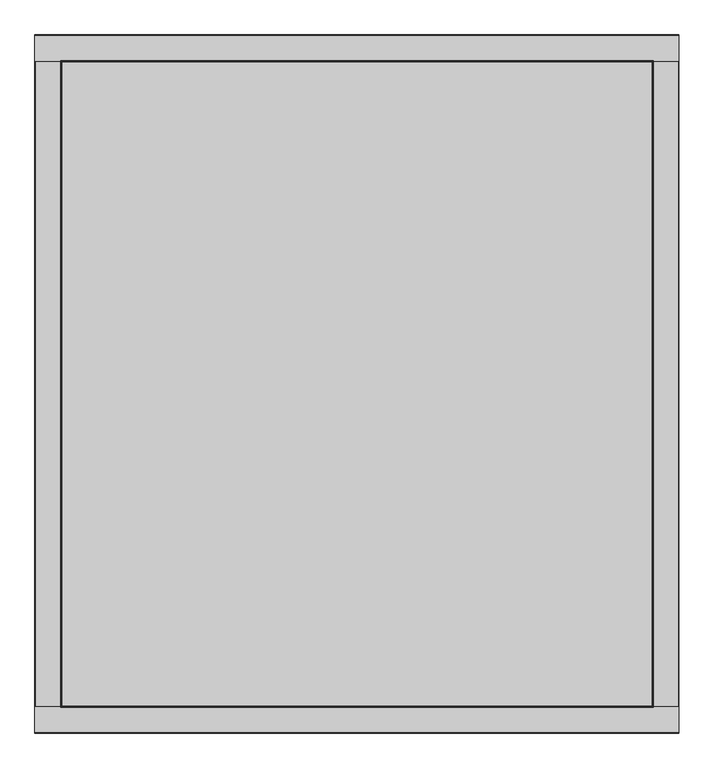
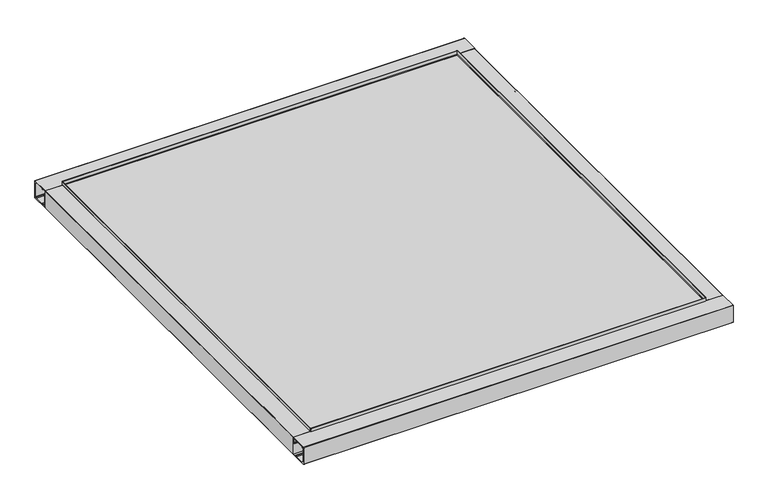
"""IFC4 building model written with IfcOpenShell, lengths in millimetres: proxy geometry, Specialy Equipment_Blindspace_Standard-Pockets-for-Roller-Blinds : 2400 mm x 2600 mm with 100 x 100 mm Box."""

from ifc_helpers import new_model, si_unit, point, frame, frame_2d, origin, place, context, project, spatial, polyline, circle_curve, trimmed, segment, composite_curve, outline, extrude, source, transform, mapped, element, save


def specialty_equipment_d781054c(model_context):
    return source(origin(), model_context, "Body", "SweptSolid", [
        extrude(outline(composite_curve([segment(polyline([(-1202.1451772, -20.5), (-1203.5000001, -20.5), (-1203.5000001, -0.3751424)]), True, "CONTINUOUS"), segment(trimmed(circle_curve(frame_2d((-1203.1248154, -0.3751424)), 0.3751847), [point((-1203.5000001, -0.3751424))], [point((-1202.7497998, -0.3638819))], False, "CARTESIAN"), True, "CONTINUOUS"), segment(polyline([(-1202.7497998, -0.3638819), (-1202.1451772, -20.5)]), True, "CONTINUOUS")], self_intersect=False)), frame((-1104.2, 0.0, 0.0), z_axis=(1.0, 0.0, 0.0), x_axis=(0.0, 1.0, 0.0)), (0.0, 0.0, 1.0), 2208.4),
        extrude(outline(composite_curve([segment(polyline([(-1202.1451772, -120.5), (-1202.7497998, -140.6361181)]), True, "CONTINUOUS"), segment(trimmed(circle_curve(frame_2d((-1203.1248154, -140.6248576)), 0.3751847), [point((-1202.7497998, -140.6361181))], [point((-1203.5000001, -140.6248576))], False, "CARTESIAN"), True, "CONTINUOUS"), segment(polyline([(-1203.5000001, -140.6248576), (-1203.5000001, -120.5), (-1202.1451772, -120.5)]), True, "CONTINUOUS")], self_intersect=False)), frame((-1104.2, 0.0, 0.0), z_axis=(1.0, 0.0, 0.0), x_axis=(0.0, 1.0, 0.0)), (0.0, 0.0, 1.0), 2208.4),
        extrude(outline(composite_curve([segment(polyline([(-20.5, 1199.25), (-20.5, 1102.132627), (-23.0, 1100.0), (-23.0, 1122.9912851), (-28.2357774, 1122.9912851), (-28.2357774, 1130.0039757), (-23.0, 1130.0039757), (-23.0, 1188.0030209), (-28.2357774, 1188.0030209), (-28.2357774, 1194.991), (-23.0, 1194.991), (-23.0, 1197.5), (-118.0, 1197.5), (-118.0, 1194.991), (-112.7642226, 1194.991), (-112.7642226, 1188.0030209), (-118.0, 1188.0030209), (-118.0, 1130.0039757), (-112.7642226, 1130.0039757), (-112.7642226, 1122.9912851), (-118.0, 1122.9912851), (-118.0, 1102.4875145), (-54.5, 1102.4875145), (-54.5, 1107.4875145), (-52.0, 1107.4875145), (-52.0, 1100.0), (-118.0, 1100.0), (-120.5, 1102.1351518), (-120.5, 1199.25)]), True, "CONTINUOUS"), segment(trimmed(circle_curve(frame_2d((-119.75, 1199.25)), 0.75), [point((-120.5, 1199.25))], [point((-119.75, 1200.0))], False, "CARTESIAN"), True, "CONTINUOUS"), segment(polyline([(-119.75, 1200.0), (-21.25, 1200.0)]), True, "CONTINUOUS"), segment(trimmed(circle_curve(frame_2d((-21.25, 1199.25)), 0.75), [point((-21.25, 1200.0))], [point((-20.5, 1199.25))], False, "CARTESIAN"), True, "CONTINUOUS")], self_intersect=False)), frame((0.0, -1200.0, 0.0), z_axis=(0.0, 1.0, 0.0), x_axis=(0.0, 0.0, 1.0)), (0.0, 0.0, 1.0), 2400.0),
        extrude(outline(composite_curve([segment(polyline([(-1299.25, -20.5), (-1202.132627, -20.5), (-1200.0, -23.0), (-1222.9912851, -23.0), (-1222.9912851, -28.2357774), (-1230.0039757, -28.2357774), (-1230.0039757, -23.0), (-1288.0030209, -23.0), (-1288.0030209, -28.2357774), (-1294.991, -28.2357774), (-1294.991, -23.0), (-1297.5, -23.0), (-1297.5, -118.0), (-1294.991, -118.0), (-1294.991, -112.7642226), (-1288.0030209, -112.7642226), (-1288.0030209, -118.0), (-1230.0039757, -118.0), (-1230.0039757, -112.7642226), (-1222.9912851, -112.7642226), (-1222.9912851, -118.0), (-1202.4875145, -118.0), (-1202.4875145, -54.5), (-1207.4875145, -54.5), (-1207.4875145, -52.0), (-1200.0, -52.0), (-1200.0, -118.0), (-1202.1351518, -120.5), (-1299.25, -120.5)]), True, "CONTINUOUS"), segment(trimmed(circle_curve(frame_2d((-1299.25, -119.75)), 0.75), [point((-1299.25, -120.5))], [point((-1300.0, -119.75))], False, "CARTESIAN"), True, "CONTINUOUS"), segment(polyline([(-1300.0, -119.75), (-1300.0, -21.25)]), True, "CONTINUOUS"), segment(trimmed(circle_curve(frame_2d((-1299.25, -21.25)), 0.75), [point((-1300.0, -21.25))], [point((-1299.25, -20.5))], False, "CARTESIAN"), True, "CONTINUOUS")], self_intersect=False)), frame((-1200.0, 0.0, 0.0), z_axis=(1.0, 0.0, 0.0), x_axis=(0.0, 1.0, 0.0)), (0.0, 0.0, 1.0), 2400.0),
        extrude(outline(composite_curve([segment(polyline([(-20.5, 1102.8451771), (-20.5, 1104.2), (-0.3751424, 1104.2)]), True, "CONTINUOUS"), segment(trimmed(circle_curve(frame_2d((-0.3751424, 1103.8248153)), 0.3751847), [point((-0.3751424, 1104.2))], [point((-0.3638819, 1103.4497997))], False, "CARTESIAN"), True, "CONTINUOUS"), segment(polyline([(-0.3638819, 1103.4497997), (-20.5, 1102.8451771)]), True, "CONTINUOUS")], self_intersect=False)), frame((0.0, -1200.0, 0.0), z_axis=(0.0, 1.0, 0.0), x_axis=(0.0, 0.0, 1.0)), (0.0, 0.0, 1.0), 2400.0),
        extrude(outline(composite_curve([segment(polyline([(-120.5, 1102.8451771), (-140.6361181, 1103.4497997)]), True, "CONTINUOUS"), segment(trimmed(circle_curve(frame_2d((-140.6248576, 1103.8248153)), 0.3751847), [point((-140.6361181, 1103.4497997))], [point((-140.6248576, 1104.2))], False, "CARTESIAN"), True, "CONTINUOUS"), segment(polyline([(-140.6248576, 1104.2), (-120.5, 1104.2), (-120.5, 1102.8451771)]), True, "CONTINUOUS")], self_intersect=False)), frame((0.0, -1200.0, 0.0), z_axis=(0.0, 1.0, 0.0), x_axis=(0.0, 0.0, 1.0)), (0.0, 0.0, 1.0), 2400.0),
        extrude(outline(composite_curve([segment(trimmed(circle_curve(frame_2d((-21.25, -1199.25)), 0.75), [point((-20.5, -1199.25))], [point((-21.25, -1200.0))], False, "CARTESIAN"), True, "CONTINUOUS"), segment(polyline([(-21.25, -1200.0), (-119.75, -1200.0)]), True, "CONTINUOUS"), segment(trimmed(circle_curve(frame_2d((-119.75, -1199.25)), 0.75), [point((-119.75, -1200.0))], [point((-120.5, -1199.25))], False, "CARTESIAN"), True, "CONTINUOUS"), segment(polyline([(-120.5, -1199.25), (-120.5, -1102.1351518), (-118.0, -1100.0), (-52.0, -1100.0), (-52.0, -1107.4875145), (-54.5, -1107.4875145), (-54.5, -1102.4875145), (-118.0, -1102.4875145), (-118.0, -1122.9912851), (-112.7642226, -1122.9912851), (-112.7642226, -1130.0039757), (-118.0, -1130.0039757), (-118.0, -1188.0030209), (-112.7642226, -1188.0030209), (-112.7642226, -1194.991), (-118.0, -1194.991), (-118.0, -1197.5), (-23.0, -1197.5), (-23.0, -1194.991), (-28.2357774, -1194.991), (-28.2357774, -1188.0030209), (-23.0, -1188.0030209), (-23.0, -1130.0039757), (-28.2357774, -1130.0039757), (-28.2357774, -1122.9912851), (-23.0, -1122.9912851), (-23.0, -1100.0), (-20.5, -1102.132627), (-20.5, -1199.25)]), True, "CONTINUOUS")], self_intersect=False)), frame((0.0, -1200.0, 0.0), z_axis=(0.0, 1.0, 0.0), x_axis=(0.0, 0.0, 1.0)), (0.0, 0.0, 1.0), 2400.0),
        extrude(outline(composite_curve([segment(polyline([(-20.5, -1102.87895), (-0.3638819, -1103.4835725)]), True, "CONTINUOUS"), segment(trimmed(circle_curve(frame_2d((-0.3751424, -1103.8585881)), 0.3751847), [point((-0.3638819, -1103.4835725))], [point((-0.3751424, -1104.2337728))], False, "CARTESIAN"), True, "CONTINUOUS"), segment(polyline([(-0.3751424, -1104.2337728), (-20.5, -1104.2337728), (-20.5, -1102.87895)]), True, "CONTINUOUS")], self_intersect=False)), frame((0.0, -1200.0, 0.0), z_axis=(0.0, 1.0, 0.0), x_axis=(0.0, 0.0, 1.0)), (0.0, 0.0, 1.0), 2400.0),
        extrude(outline(composite_curve([segment(polyline([(-120.5, -1102.87895), (-120.5, -1104.2337728), (-140.6248576, -1104.2337728)]), True, "CONTINUOUS"), segment(trimmed(circle_curve(frame_2d((-140.6248576, -1103.8585881)), 0.3751847), [point((-140.6248576, -1104.2337728))], [point((-140.6361181, -1103.4835725))], False, "CARTESIAN"), True, "CONTINUOUS"), segment(polyline([(-140.6361181, -1103.4835725), (-120.5, -1102.87895)]), True, "CONTINUOUS")], self_intersect=False)), frame((0.0, -1200.0, 0.0), z_axis=(0.0, 1.0, 0.0), x_axis=(0.0, 0.0, 1.0)), (0.0, 0.0, 1.0), 2400.0),
        extrude(outline(composite_curve([segment(trimmed(circle_curve(frame_2d((1299.25, -21.25)), 0.75), [point((1299.25, -20.5))], [point((1300.0, -21.25))], False, "CARTESIAN"), True, "CONTINUOUS"), segment(polyline([(1300.0, -21.25), (1300.0, -119.75)]), True, "CONTINUOUS"), segment(trimmed(circle_curve(frame_2d((1299.25, -119.75)), 0.75), [point((1300.0, -119.75))], [point((1299.25, -120.5))], False, "CARTESIAN"), True, "CONTINUOUS"), segment(polyline([(1299.25, -120.5), (1202.1351518, -120.5), (1200.0, -118.0), (1200.0, -52.0), (1207.4875145, -52.0), (1207.4875145, -54.5), (1202.4875145, -54.5), (1202.4875145, -118.0), (1222.9912851, -118.0), (1222.9912851, -112.7642226), (1230.0039757, -112.7642226), (1230.0039757, -118.0), (1288.0030209, -118.0), (1288.0030209, -112.7642226), (1294.991, -112.7642226), (1294.991, -118.0), (1297.5, -118.0), (1297.5, -23.0), (1294.991, -23.0), (1294.991, -28.2357774), (1288.0030209, -28.2357774), (1288.0030209, -23.0), (1230.0039757, -23.0), (1230.0039757, -28.2357774), (1222.9912851, -28.2357774), (1222.9912851, -23.0), (1200.0, -23.0), (1202.132627, -20.5), (1299.25, -20.5)]), True, "CONTINUOUS")], self_intersect=False)), frame((-1200.0, 0.0, 0.0), z_axis=(1.0, 0.0, 0.0), x_axis=(0.0, 1.0, 0.0)), (0.0, 0.0, 1.0), 2400.0),
        extrude(outline(composite_curve([segment(polyline([(1202.1451772, -20.5), (1202.7497998, -0.3638819)]), True, "CONTINUOUS"), segment(trimmed(circle_curve(frame_2d((1203.1248154, -0.3751424)), 0.3751847), [point((1202.7497998, -0.3638819))], [point((1203.5000001, -0.3751424))], False, "CARTESIAN"), True, "CONTINUOUS"), segment(polyline([(1203.5000001, -0.3751424), (1203.5000001, -20.5), (1202.1451772, -20.5)]), True, "CONTINUOUS")], self_intersect=False)), frame((-1104.2, 0.0, 0.0), z_axis=(1.0, 0.0, 0.0), x_axis=(0.0, 1.0, 0.0)), (0.0, 0.0, 1.0), 2208.4),
        extrude(outline(composite_curve([segment(polyline([(1202.1451772, -120.5), (1203.5000001, -120.5), (1203.5000001, -140.6248576)]), True, "CONTINUOUS"), segment(trimmed(circle_curve(frame_2d((1203.1248154, -140.6248576)), 0.3751847), [point((1203.5000001, -140.6248576))], [point((1202.7497998, -140.6361181))], False, "CARTESIAN"), True, "CONTINUOUS"), segment(polyline([(1202.7497998, -140.6361181), (1202.1451772, -120.5)]), True, "CONTINUOUS")], self_intersect=False)), frame((-1104.2, 0.0, 0.0), z_axis=(1.0, 0.0, 0.0), x_axis=(0.0, 1.0, 0.0)), (0.0, 0.0, 1.0), 2208.4),
        extrude(outline(polyline([(1180.0, 1280.0), (1180.0, -1280.0), (-1180.0, -1280.0), (-1180.0, 1280.0), (1180.0, 1280.0)])), frame((0.0, 0.0, -42.4999999), z_axis=(0.0, 0.0, 1.0), x_axis=(1.0, 0.0, 0.0)), (0.0, 0.0, 1.0), 5.0),
    ])


if __name__ == "__main__":
    model = new_model("IFC4")
    model_context = context("Model", 3, world=origin())
    ifc_project = project(units=[si_unit("LENGTHUNIT", "METRE", prefix="MILLI")], contexts=[model_context])
    site = spatial("IfcSite", under=ifc_project)
    building = spatial("IfcBuilding", under=site)
    placement = place(None, origin())
    specialty_equipment_shape = specialty_equipment_d781054c(model_context)
    element("IfcBuildingElementProxy", 1, Name="Specialy Equipment_Blindspace_Standard-Pockets-for-Roller-Blinds : 2400 mm x 2600 mm with 100 x 100 mm Box", ObjectType="Specialy Equipment_Blindspace_Standard-Pockets-for-Roller-Blinds : 2400 mm x 2600 mm with 100 x 100 mm Box", at=placement, inside=building, context=model_context, shape_type="MappedRepresentation", body=[
        mapped(specialty_equipment_shape, transform((0.0, 0.0, 0.0), x_axis=(1.0, 0.0, 0.0), y_axis=(0.0, 1.0, 0.0), z_axis=(0.0, 0.0, 1.0))),
    ])
    save(model, "model.ifc")
